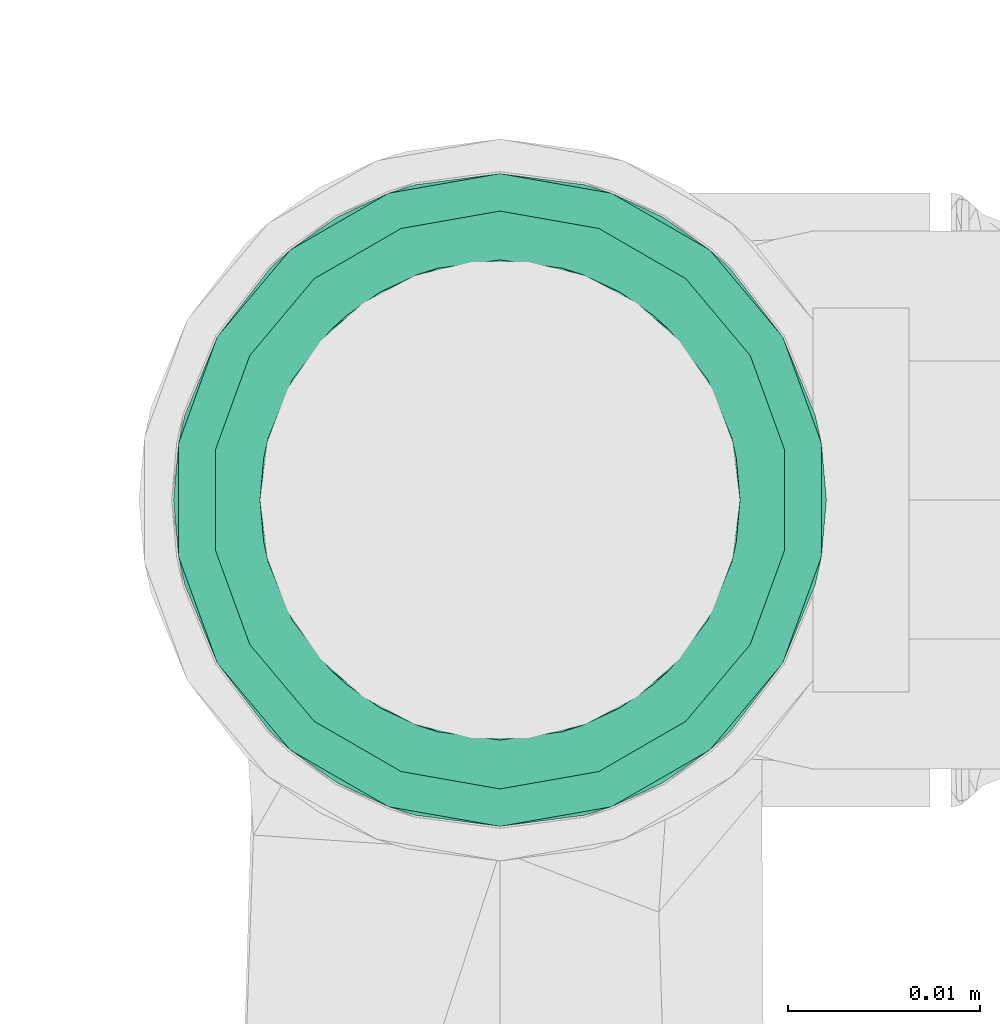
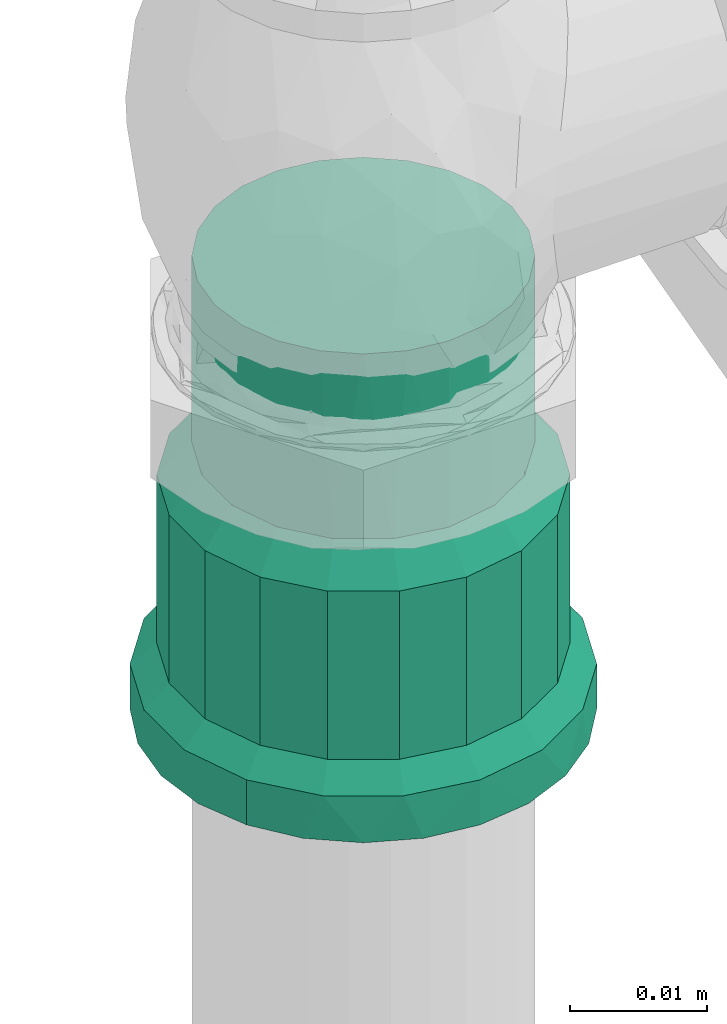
# One storey, part 362 of 589: 1 flow fitting.
"""IFC2X3 building model written with IfcOpenShell, lengths in millimetres."""

from ifc_helpers import new_model, entity, si_unit, converted_unit, derived_unit, direction, frame, origin, place, context, subcontext, project, spatial, faceted_brep, source, transform, mapped, material, type_object, type_shapes, element, save


model = new_model("IFC2X3")

# Units and contexts
model_context = context("Model", 3, precision=0.01, world=origin(), true_north=direction((6.123031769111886e-17, 1.0)))
body_context = subcontext(model_context, "Body", "Model", "MODEL_VIEW")
ifc_project = project(units=[si_unit("LENGTHUNIT", "METRE", prefix="MILLI"), si_unit("AREAUNIT", "SQUARE_METRE"), si_unit("VOLUMEUNIT", "CUBIC_METRE"), converted_unit("PLANEANGLEUNIT", "DEGREE", entity("IfcRatioMeasure", 0.017453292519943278), si_unit("PLANEANGLEUNIT", "RADIAN"), dimensions=[0, 0, 0, 0, 0, 0, 0]), si_unit("MASSUNIT", "GRAM", prefix="KILO"), derived_unit("MASSDENSITYUNIT", [(si_unit("MASSUNIT", "GRAM", prefix="KILO"), 1), (si_unit("LENGTHUNIT", "METRE"), -3)]), derived_unit("IONCONCENTRATIONUNIT", [(si_unit("MASSUNIT", "GRAM", prefix="KILO"), 1), (si_unit("LENGTHUNIT", "METRE"), -3)]), derived_unit("MOMENTOFINERTIAUNIT", [(si_unit("LENGTHUNIT", "METRE"), 4)]), si_unit("TIMEUNIT", "SECOND"), si_unit("FREQUENCYUNIT", "HERTZ"), si_unit("THERMODYNAMICTEMPERATUREUNIT", "DEGREE_CELSIUS"), derived_unit("THERMALTRANSMITTANCEUNIT", [(si_unit("MASSUNIT", "GRAM", prefix="KILO"), 1), (si_unit("THERMODYNAMICTEMPERATUREUNIT", "KELVIN"), -1), (si_unit("TIMEUNIT", "SECOND"), -3)]), derived_unit("THERMALCONDUCTANCEUNIT", [(si_unit("MASSUNIT", "GRAM", prefix="KILO"), 1), (si_unit("THERMODYNAMICTEMPERATUREUNIT", "KELVIN"), -1), (si_unit("TIMEUNIT", "SECOND"), -3), (si_unit("LENGTHUNIT", "METRE"), 1)]), derived_unit("VOLUMETRICFLOWRATEUNIT", [(si_unit("LENGTHUNIT", "METRE"), 3), (si_unit("TIMEUNIT", "SECOND"), -1)]), derived_unit("MASSFLOWRATEUNIT", [(si_unit("MASSUNIT", "GRAM", prefix="KILO"), 1), (si_unit("TIMEUNIT", "SECOND"), -1)]), derived_unit("ROTATIONALFREQUENCYUNIT", [(si_unit("TIMEUNIT", "SECOND"), -1)]), si_unit("ELECTRICCURRENTUNIT", "AMPERE"), si_unit("ELECTRICVOLTAGEUNIT", "VOLT"), si_unit("POWERUNIT", "WATT"), si_unit("FORCEUNIT", "NEWTON", prefix="KILO"), si_unit("ILLUMINANCEUNIT", "LUX"), si_unit("LUMINOUSFLUXUNIT", "LUMEN"), si_unit("LUMINOUSINTENSITYUNIT", "CANDELA"), derived_unit("USERDEFINED", [(si_unit("MASSUNIT", "GRAM", prefix="KILO"), -1), (si_unit("LENGTHUNIT", "METRE"), -2), (si_unit("TIMEUNIT", "SECOND"), 3), (si_unit("LUMINOUSFLUXUNIT", "LUMEN"), 1)]), derived_unit("USERDEFINED", [(si_unit("MASSUNIT", "GRAM", prefix="KILO"), 1), (si_unit("TIMEUNIT", "SECOND"), -3), (si_unit("LENGTHUNIT", "METRE"), 3), (si_unit("ELECTRICCURRENTUNIT", "AMPERE"), -2)]), derived_unit("SOUNDPOWERUNIT", [(si_unit("MASSUNIT", "GRAM", prefix="KILO"), 1), (si_unit("TIMEUNIT", "SECOND"), -3), (si_unit("LENGTHUNIT", "METRE"), 2)]), derived_unit("SOUNDPRESSUREUNIT", [(si_unit("MASSUNIT", "GRAM", prefix="KILO"), 1), (si_unit("LENGTHUNIT", "METRE"), -1), (si_unit("TIMEUNIT", "SECOND"), -2)]), derived_unit("LINEARVELOCITYUNIT", [(si_unit("LENGTHUNIT", "METRE"), 1), (si_unit("TIMEUNIT", "SECOND"), -1)]), si_unit("PRESSUREUNIT", "PASCAL"), derived_unit("USERDEFINED", [(si_unit("MASSUNIT", "GRAM", prefix="KILO"), 1), (si_unit("LENGTHUNIT", "METRE"), -2), (si_unit("TIMEUNIT", "SECOND"), -2)]), derived_unit("LINEARFORCEUNIT", [(si_unit("MASSUNIT", "GRAM", prefix="KILO"), 1), (si_unit("TIMEUNIT", "SECOND"), -2)]), derived_unit("PLANARFORCEUNIT", [(si_unit("MASSUNIT", "GRAM", prefix="KILO"), 1), (si_unit("LENGTHUNIT", "METRE"), -1), (si_unit("TIMEUNIT", "SECOND"), -2)]), derived_unit("SPECIFICHEATCAPACITYUNIT", [(si_unit("THERMODYNAMICTEMPERATUREUNIT", "KELVIN"), -1), (si_unit("LENGTHUNIT", "METRE"), 2), (si_unit("TIMEUNIT", "SECOND"), -2)]), derived_unit("HEATINGVALUEUNIT", [(si_unit("LENGTHUNIT", "METRE"), 2), (si_unit("TIMEUNIT", "SECOND"), -2)]), derived_unit("VAPORPERMEABILITYUNIT", [(si_unit("LENGTHUNIT", "METRE"), -1), (si_unit("TIMEUNIT", "SECOND"), 1)]), derived_unit("DYNAMICVISCOSITYUNIT", [(si_unit("MASSUNIT", "GRAM", prefix="KILO"), 1), (si_unit("TIMEUNIT", "SECOND"), -1), (si_unit("LENGTHUNIT", "METRE"), -1)]), derived_unit("THERMALEXPANSIONCOEFFICIENTUNIT", [(si_unit("THERMODYNAMICTEMPERATUREUNIT", "KELVIN"), -1)]), derived_unit("MODULUSOFELASTICITYUNIT", [(si_unit("MASSUNIT", "GRAM", prefix="KILO"), 1), (si_unit("LENGTHUNIT", "METRE"), -1), (si_unit("TIMEUNIT", "SECOND"), -2)]), derived_unit("ISOTHERMALMOISTURECAPACITYUNIT", [(si_unit("LENGTHUNIT", "METRE"), 3), (si_unit("MASSUNIT", "GRAM", prefix="KILO"), -1)]), derived_unit("MOISTUREDIFFUSIVITYUNIT", [(si_unit("TIMEUNIT", "SECOND"), -1), (si_unit("LENGTHUNIT", "METRE"), 2)])], contexts=[model_context])

# Site, building, storey
site_placement = place(None, origin())
site = spatial("IfcSite", under=ifc_project, at=site_placement, Name="Default", CompositionType="ELEMENT")
building_placement = place(site_placement, origin())
building = spatial("IfcBuilding", under=site, at=building_placement, CompositionType="ELEMENT")
storey_placement = place(building_placement, frame((0.0, 0.0, 100.0)))
storey = spatial("IfcBuildingStorey", under=building, at=storey_placement, Name="TÉRREO", CompositionType="ELEMENT", Elevation=100.0)

# Flow fitting
ifc_material = material(Name="PVC Marrom")
pipe_fitting_type = type_object("IfcPipeFittingType", Name="PVC Marrom Soldável_Adaptador Curto com Bolsa e Rosca Aninhado_Rodrigo MEP:Adaptador", PredefinedType="NOTDEFINED", material=ifc_material)
shared_shape = source(origin(), body_context, "Body", "Brep", [
    faceted_brep([(0.0, 6.2499999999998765, -10.825317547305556), (0.0, 12.020815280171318, -12.0208152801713), (0.0, 8.500000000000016, -14.72243186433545), (0.0, 8.838834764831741, -8.83883476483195), (0.0, 3.2352380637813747, -12.07407282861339), (0.0, 14.722431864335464, -8.499999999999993), (0.0, 10.825317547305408, -6.250000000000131), (0.0, 12.074072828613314, -3.2352380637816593), (0.0, 16.42073904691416, -4.399923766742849), (0.0, 12.5, 0.0), (0.0, 17.0, 0.0), (0.0, 12.074072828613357, 3.2352380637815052), (0.0, 16.420739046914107, 4.399923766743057), (0.0, 10.825317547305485, 6.2499999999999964), (0.0, 14.722431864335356, 8.500000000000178), (0.0, 8.83883476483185, 8.838834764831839), (0.0, 12.020815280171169, 12.020815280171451), (0.0, 6.250000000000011, 10.82531754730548), (0.0, 8.499999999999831, 14.722431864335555), (0.0, 3.2352380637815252, 12.07407282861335), (0.0, 4.39992376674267, 16.42073904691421), (0.0, 0.0, 12.5), (0.0, 0.0, 17.0), (0.0, -3.2352380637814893, 12.07407282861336), (0.0, -4.399923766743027, 16.420739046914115), (0.0, -6.24999999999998, 10.825317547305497), (0.0, -8.500000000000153, 14.722431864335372), (0.0, -8.838834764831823, 8.838834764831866), (0.0, -12.020815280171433, 12.020815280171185), (0.0, -10.82531754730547, 6.250000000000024), (0.0, -14.722431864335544, 8.499999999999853), (0.0, -16.42073904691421, 4.399923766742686), (0.0, -12.074072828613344, 3.2352380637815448), (0.0, -17.0, 0.0), (0.0, -12.5, 0.0), (0.0, -16.42073904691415, -4.399923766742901), (0.0, -12.074072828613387, -3.235238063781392), (0.0, -14.722431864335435, -8.500000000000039), (0.0, -10.82531754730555, -6.249999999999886), (0.0, -12.02081528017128, -12.020815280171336), (0.0, -8.838834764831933, -8.838834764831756), (0.0, -8.499999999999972, -14.722431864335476), (0.0, -6.250000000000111, -10.825317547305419), (0.0, -4.399923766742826, -16.42073904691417), (0.0, -3.235238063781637, -12.074072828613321), (0.0, 0.0, -17.0), (0.0, 0.0, -12.5), (0.0, 4.399923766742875, -16.420739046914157), (4.0, -16.487306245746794, 2.907393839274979), (4.0, -15.974612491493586, 5.8147876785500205), (4.0, -13.022146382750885, 10.928115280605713), (4.0, -10.760457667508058, 12.825628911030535), (4.0, -14.498379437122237, 8.371451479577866), (4.0, -2.9501525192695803, 16.742060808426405), (4.0, -5.724460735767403, 15.732601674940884), (4.0, -17.0, 0.0), (4.0, -16.59968259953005, 2.27012779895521), (4.0, -8.498768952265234, 14.723142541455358), (4.0, 5.728407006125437, 15.731165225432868), (4.0, 8.502461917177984, 14.721010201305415), (4.0, 2.954352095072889, 16.74132024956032), (4.0, 10.763674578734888, 12.82292929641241), (4.0, 13.02488724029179, 10.924848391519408), (4.0, 15.976070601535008, 5.8107803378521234), (4.0, 17.0, 0.0), (4.0, 14.5004789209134, 8.367814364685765), (4.0, 0.002099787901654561, 16.741690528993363), (4.0, 15.97607060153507, -5.810780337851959), (4.0, 13.024887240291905, -10.92484839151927), (4.0, 10.763674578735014, -12.822929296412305), (4.0, 14.500478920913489, -8.367814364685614), (4.0, 2.9543520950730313, -16.741320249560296), (4.0, 5.728407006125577, -15.731165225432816), (4.0, 8.502461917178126, -14.721010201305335), (4.0, -16.487306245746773, -2.907393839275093), (4.0, -5.724460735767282, -15.732601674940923), (4.0, -8.498768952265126, -14.72314254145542), (4.0, -2.950152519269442, -16.74206080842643), (4.0, -10.760457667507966, -12.825628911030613), (4.0, -13.022146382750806, -10.928115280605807), (4.0, -15.974612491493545, -5.814787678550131), (4.0, -14.498379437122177, -8.371451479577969), (4.0, 0.002099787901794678, -16.741690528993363), (4.0, -16.599682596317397, -2.2701278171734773), (20.84999999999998, -14.142230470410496, 5.147797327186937), (5.900000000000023, -14.142230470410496, 5.147797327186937), (5.900000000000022, -14.59611523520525, 2.573898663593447), (5.900000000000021, -15.05, 0.0), (20.850000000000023, -15.05, 0.0), (20.85, -14.596115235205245, 2.573898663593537), (20.849999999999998, -14.535973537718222, 2.91495138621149), (20.84999999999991, -7.523910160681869, 13.034311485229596), (5.900000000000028, -7.523910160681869, 13.034311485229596), (5.900000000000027, -9.526169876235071, 11.354453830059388), (5.900000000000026, -11.528429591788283, 9.674596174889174), (20.84999999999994, -11.528429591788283, 9.674596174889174), (20.849999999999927, -9.52616987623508, 11.354453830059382), (5.900000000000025, -12.83533003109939, 7.411196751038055), (20.849999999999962, -12.835330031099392, 7.411196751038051), (5.900000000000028, -5.067831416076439, 13.927979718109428), (20.849999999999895, -5.067831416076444, 13.927979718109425), (20.849999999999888, -2.6117526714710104, 14.821647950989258), (5.900000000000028, -2.6117526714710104, 14.821647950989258), (5.900000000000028, 0.0018589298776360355, 14.8213201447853), (20.849999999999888, 0.0018589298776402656, 14.821320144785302), (20.849999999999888, 2.61547053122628, 14.820992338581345), (5.900000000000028, 2.615470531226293, 14.820992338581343), (20.849999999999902, 7.527179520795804, 13.032423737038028), (5.900000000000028, 7.527179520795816, 13.032423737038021), (5.900000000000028, 5.071325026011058, 13.92670803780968), (20.849999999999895, 5.0713250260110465, 13.926708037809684), (20.84999999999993, 11.530856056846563, 9.671704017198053), (5.900000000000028, 11.530856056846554, 9.671704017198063), (5.900000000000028, 9.52901778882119, 11.35206387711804), (20.849999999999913, 9.529017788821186, 11.352063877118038), (20.849999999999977, 14.143521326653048, 5.144249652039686), (5.900000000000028, 14.143521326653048, 5.144249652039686), (5.900000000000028, 12.837188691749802, 7.407976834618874), (20.849999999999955, 12.837188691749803, 7.407976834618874), (20.850000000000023, 15.05, 0.0), (5.900000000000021, 15.05, 0.0), (20.85000000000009, 14.143521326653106, -5.144249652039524), (5.900000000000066, 14.143521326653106, -5.144249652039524), (5.900000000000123, 7.527179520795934, -13.032423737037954), (5.900000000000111, 9.529017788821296, -11.352063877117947), (5.900000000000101, 11.530856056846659, -9.67170401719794), (20.85000000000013, 11.530856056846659, -9.67170401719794), (20.85000000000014, 9.529017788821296, -11.352063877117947), (20.850000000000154, 7.527179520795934, -13.032423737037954), (20.850000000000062, -14.142230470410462, -5.147797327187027), (5.900000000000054, -14.142230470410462, -5.147797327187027), (5.90000000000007, -12.835330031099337, -7.411196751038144), (5.900000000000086, -11.528429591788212, -9.67459617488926), (20.850000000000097, -11.528429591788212, -9.67459617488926), (20.850000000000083, -12.835330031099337, -7.411196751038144), (20.850000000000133, -7.523910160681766, -13.034311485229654), (5.900000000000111, -7.523910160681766, -13.034311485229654), (5.90000000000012, -5.067831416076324, -13.927979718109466), (5.900000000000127, -2.6117526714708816, -14.821647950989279), (20.850000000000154, -2.6117526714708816, -14.821647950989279), (20.85000000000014, -5.067831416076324, -13.927979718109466), (5.900000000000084, 12.837188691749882, -7.407976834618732), (20.850000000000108, 12.837188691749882, -7.40797683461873), (5.900000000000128, 5.071325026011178, -13.926708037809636), (20.850000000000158, 5.071325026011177, -13.926708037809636), (20.85000000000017, 2.6154705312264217, -14.82099233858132), (5.900000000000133, 2.6154705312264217, -14.82099233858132), (20.850000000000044, -14.535973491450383, -2.91495164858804), (20.85000000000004, -14.667751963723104, -2.1676596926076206), (5.900000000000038, -14.596115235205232, -2.573898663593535), (5.900000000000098, -9.526169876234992, -11.354453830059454), (20.850000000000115, -9.52616987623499, -11.354453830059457), (5.900000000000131, 0.0018589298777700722, -14.821320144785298), (20.850000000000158, 0.0018589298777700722, -14.821320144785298), (40.29999999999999, 3.2352380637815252, -12.07407282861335), (40.29999999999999, 6.250000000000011, -10.82531754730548), (40.29999999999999, 8.83883476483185, -8.838834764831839), (40.29999999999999, 10.825317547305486, -6.249999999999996), (40.29999999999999, 12.074072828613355, -3.2352380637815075), (40.29999999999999, 12.5, 0.0), (40.29999999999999, 12.074072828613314, 3.2352380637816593), (40.29999999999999, 10.825317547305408, 6.250000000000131), (40.29999999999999, 8.838834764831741, 8.83883476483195), (40.29999999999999, 6.2499999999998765, 10.825317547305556), (40.29999999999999, 3.2352380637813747, 12.07407282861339), (40.29999999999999, 0.0, 12.5), (40.29999999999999, -3.235238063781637, 12.074072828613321), (40.29999999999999, -6.250000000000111, 10.825317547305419), (40.29999999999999, -8.838834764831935, 8.838834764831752), (40.29999999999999, -10.825317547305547, 6.249999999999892), (40.29999999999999, -12.074072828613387, 3.235238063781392), (40.29999999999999, -12.5, 0.0), (40.29999999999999, -12.074072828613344, -3.2352380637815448), (40.29999999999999, -10.825317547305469, -6.2500000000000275), (40.29999999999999, -8.838834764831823, -8.838834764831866), (40.29999999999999, -6.24999999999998, -10.825317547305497), (40.29999999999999, -3.2352380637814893, -12.07407282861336), (40.29999999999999, 0.0, -12.5), (23.749999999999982, -12.5, 0.0), (23.74999999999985, -9.57510763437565, 8.035378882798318), (23.749999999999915, -11.746038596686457, 4.275579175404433), (23.749999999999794, -6.249094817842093, 10.825840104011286), (23.74999999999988, -10.660573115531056, 6.155479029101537), (23.74999999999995, -12.182518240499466, 1.8003818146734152), (23.74999999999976, -2.1692297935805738, 12.310338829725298), (23.74999999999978, -4.209162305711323, 11.56808946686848), (23.74999999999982, -7.912101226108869, 9.430609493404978), (23.749999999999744, 2.1723177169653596, 12.309794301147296), (23.749999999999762, 6.251810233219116, 10.824272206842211), (23.749999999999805, 9.577122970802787, 8.032976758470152), (23.749999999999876, 11.747110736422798, 4.272632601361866), (23.749999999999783, 7.9144666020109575, 9.428624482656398), (23.74999999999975, 4.212063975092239, 11.56703325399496), (23.749999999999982, 12.5, 0.0), (23.749999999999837, 10.662116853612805, 6.15280467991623), (23.74999999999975, 0.0015439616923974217, 12.31006656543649), (23.750000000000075, 9.577122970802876, -8.032976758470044), (23.75000000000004, 11.747110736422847, -4.272632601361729), (23.750000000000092, 6.2518102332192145, -10.824272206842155), (23.750000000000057, 10.662116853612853, -6.152804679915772), (23.7500000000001, 2.1723177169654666, -12.309794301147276), (23.7500000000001, 4.212063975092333, -11.56703325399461), (23.75000000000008, 7.914466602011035, -9.428624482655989), (23.750000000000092, -2.1692297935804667, -12.310338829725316), (23.750000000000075, -6.249094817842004, -10.82584010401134), (23.750000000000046, -9.575107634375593, -8.035378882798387), (23.750000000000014, -11.74603859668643, -4.275579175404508), (23.750000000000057, -7.912101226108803, -9.430609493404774), (23.75000000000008, -4.20916230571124, -11.56808946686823), (23.749999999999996, -12.123019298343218, -2.1377895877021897), (23.750000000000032, -10.660573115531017, -6.155479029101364), (23.7500000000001, 0.0015439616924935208, -12.310066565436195), (5.900000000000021, -12.5, 0.0), (20.850000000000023, -12.5, 0.0), (20.850000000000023, -12.07407282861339, -3.2352380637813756), (5.900000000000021, -12.07407282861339, -3.2352380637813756), (4.0, -12.07407282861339, -3.2352380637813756), (4.0, -12.5, 0.0), (20.850000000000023, -10.825317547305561, -6.249999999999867), (5.900000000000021, -10.825317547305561, -6.249999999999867), (4.0, -10.825317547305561, -6.249999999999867), (5.900000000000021, -6.250000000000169, -10.825317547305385), (4.0, -6.250000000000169, -10.825317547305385), (4.0, -8.838834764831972, -8.838834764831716), (5.900000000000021, -8.838834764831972, -8.838834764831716), (20.850000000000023, -8.838834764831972, -8.838834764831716), (20.850000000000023, -6.250000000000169, -10.825317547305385), (5.900000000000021, -3.235238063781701, -12.074072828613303), (4.0, -3.235238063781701, -12.074072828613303), (20.850000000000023, -3.235238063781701, -12.074072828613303), (20.850000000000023, 0.0, -12.5), (5.900000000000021, 0.0, -12.5), (4.0, 0.0, -12.5), (20.850000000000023, 3.2352380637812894, -12.074072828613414), (5.900000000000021, 3.2352380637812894, -12.074072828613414), (4.0, 3.2352380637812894, -12.074072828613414), (20.850000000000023, 6.24999999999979, -10.825317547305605), (5.900000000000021, 6.24999999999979, -10.825317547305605), (4.0, 6.24999999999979, -10.825317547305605), (5.900000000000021, 10.825317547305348, -6.250000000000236), (4.0, 10.825317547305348, -6.250000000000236), (4.0, 8.838834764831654, -8.838834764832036), (5.900000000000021, 8.838834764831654, -8.838834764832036), (20.850000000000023, 8.838834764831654, -8.838834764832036), (20.850000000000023, 10.825317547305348, -6.250000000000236), (5.900000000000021, 12.07407282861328, -3.2352380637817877), (4.0, 12.07407282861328, -3.2352380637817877), (20.850000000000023, 12.07407282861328, -3.2352380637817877), (20.850000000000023, 12.5, 0.0), (5.900000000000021, 12.5, 0.0), (4.0, 12.5, 0.0), (20.850000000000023, 12.074072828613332, 3.2352380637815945), (5.900000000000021, 12.074072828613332, 3.2352380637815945), (4.0, 12.074072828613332, 3.2352380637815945), (20.850000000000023, 10.82531754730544, 6.250000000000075), (5.900000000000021, 10.82531754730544, 6.250000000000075), (4.0, 10.82531754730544, 6.250000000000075), (5.900000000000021, 6.249999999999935, 10.825317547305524), (4.0, 6.249999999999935, 10.825317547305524), (4.0, 8.838834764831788, 8.838834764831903), (5.900000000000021, 8.838834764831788, 8.838834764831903), (20.850000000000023, 8.838834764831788, 8.838834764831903), (20.850000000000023, 6.249999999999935, 10.825317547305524), (5.900000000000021, 3.2352380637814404, 12.074072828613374), (4.0, 3.2352380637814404, 12.074072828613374), (20.850000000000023, 3.2352380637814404, 12.074072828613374), (20.850000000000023, 0.0, 12.5), (5.900000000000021, 0.0, 12.5), (4.0, 0.0, 12.5), (20.850000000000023, -3.2352380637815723, 12.074072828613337), (5.900000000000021, -3.2352380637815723, 12.074072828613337), (4.0, -3.2352380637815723, 12.074072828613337), (20.850000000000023, -6.250000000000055, 10.825317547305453), (5.900000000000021, -6.250000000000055, 10.825317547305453), (4.0, -6.250000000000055, 10.825317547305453), (5.900000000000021, -10.825317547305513, 6.249999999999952), (4.0, -10.825317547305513, 6.249999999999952), (4.0, -8.838834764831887, 8.838834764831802), (5.900000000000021, -8.838834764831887, 8.838834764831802), (20.850000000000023, -8.838834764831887, 8.838834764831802), (20.850000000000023, -10.825317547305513, 6.249999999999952), (5.900000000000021, -12.07407282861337, 3.2352380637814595), (4.0, -12.07407282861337, 3.2352380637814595), (20.850000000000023, -12.07407282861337, 3.2352380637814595)], [[[0, 1, 2]], [[3, 1, 0]], [[4, 0, 2]], [[1, 3, 5]], [[5, 3, 6]], [[5, 6, 7]], [[8, 5, 7]], [[9, 8, 7]], [[10, 8, 9]], [[10, 9, 11]], [[12, 10, 11]], [[12, 11, 13]], [[14, 12, 13]], [[14, 13, 15]], [[15, 16, 14]], [[15, 17, 16]], [[18, 16, 17]], [[19, 18, 17]], [[18, 19, 20]], [[21, 20, 19]], [[22, 20, 21]], [[21, 23, 22]], [[24, 22, 23]], [[25, 24, 23]], [[24, 25, 26]], [[25, 27, 26]], [[27, 28, 26]], [[28, 27, 29]], [[28, 29, 30]], [[30, 29, 31]], [[31, 29, 32]], [[33, 31, 32]], [[32, 34, 33]], [[33, 34, 35]], [[34, 36, 35]], [[37, 35, 36]], [[37, 36, 38]], [[39, 37, 38]], [[40, 39, 38]], [[40, 41, 39]], [[42, 41, 40]], [[43, 41, 42]], [[42, 44, 43]], [[43, 44, 45]], [[46, 45, 44]], [[46, 4, 47]], [[45, 46, 47]], [[2, 47, 4]], [[48, 49, 31]], [[28, 50, 51]], [[50, 30, 49, 52]], [[53, 24, 54]], [[30, 31, 49]], [[33, 55, 56, 48]], [[51, 57, 26]], [[51, 26, 28]], [[30, 50, 28]], [[58, 59, 18]], [[58, 18, 20]], [[26, 57, 54]], [[26, 54, 24]], [[22, 24, 53]], [[33, 48, 31]], [[20, 60, 58]], [[16, 61, 62]], [[12, 63, 64]], [[63, 14, 62, 65]], [[12, 64, 10]], [[18, 61, 16]], [[22, 53, 66, 60]], [[22, 60, 20]], [[14, 16, 62]], [[59, 61, 18]], [[14, 63, 12]], [[8, 64, 67]], [[1, 68, 69]], [[68, 5, 67, 70]], [[71, 47, 72]], [[5, 8, 67]], [[8, 10, 64]], [[2, 72, 47]], [[69, 73, 2]], [[5, 68, 1]], [[74, 33, 35]], [[75, 76, 41]], [[2, 73, 72]], [[75, 41, 43]], [[45, 47, 71]], [[69, 2, 1]], [[43, 77, 75]], [[39, 78, 79]], [[35, 80, 74]], [[80, 37, 79, 81]], [[37, 80, 35]], [[41, 78, 39]], [[45, 71, 82, 77]], [[45, 77, 43]], [[37, 39, 79]], [[76, 78, 41]], [[33, 74, 83, 55]], [[84, 85, 86, 87, 88, 89, 90]], [[91, 92, 93, 94, 95, 96]], [[97, 85, 84, 98, 95, 94]], [[99, 92, 91, 100, 101, 102]], [[103, 102, 101, 104, 105, 106]], [[107, 108, 109, 106, 105, 110]], [[111, 112, 113, 108, 107, 114]], [[115, 116, 117, 112, 111, 118]], [[115, 119, 120, 116]], [[120, 119, 121, 122]], [[123, 124, 125, 126, 127, 128]], [[129, 130, 131, 132, 133, 134]], [[135, 136, 137, 138, 139, 140]], [[141, 122, 121, 142, 126, 125]], [[143, 123, 128, 144, 145, 146]], [[147, 148, 88, 87, 149, 130, 129]], [[133, 132, 150, 136, 135, 151]], [[152, 146, 145, 153, 139, 138]], [[154, 155, 156, 157, 158, 159, 160, 161, 162, 163, 164, 165, 166, 167, 168, 169, 170, 171, 172, 173, 174, 175, 176, 177]], [[178, 171, 170]], [[179, 169, 168]], [[170, 169, 180]], [[168, 167, 181]], [[169, 179, 182, 180]], [[170, 180, 183, 178]], [[166, 184, 185, 181]], [[168, 181, 186, 179]], [[184, 166, 165]], [[181, 167, 166]], [[164, 187, 165]], [[163, 188, 164]], [[189, 162, 161]], [[163, 162, 188]], [[190, 161, 160]], [[162, 189, 191, 188]], [[164, 188, 192, 187]], [[160, 193, 190]], [[161, 190, 194, 189]], [[160, 159, 193]], [[165, 187, 195, 184]], [[193, 159, 158]], [[196, 157, 156]], [[158, 157, 197]], [[156, 155, 198]], [[157, 196, 199, 197]], [[197, 193, 158]], [[154, 200, 201, 198]], [[156, 198, 202, 196]], [[200, 154, 177]], [[198, 155, 154]], [[176, 203, 177]], [[175, 204, 176]], [[205, 174, 173]], [[175, 174, 204]], [[206, 173, 172]], [[174, 205, 207, 204]], [[176, 204, 208, 203]], [[172, 178, 209, 206]], [[173, 206, 210, 205]], [[172, 171, 178]], [[177, 203, 211, 200]], [[212, 213, 214, 215, 216, 36, 34, 217]], [[215, 214, 218, 219, 220, 38, 36, 216]], [[221, 222, 42, 40, 223, 224, 225, 226]], [[225, 224, 223, 40, 38, 220, 219, 218]], [[227, 228, 44, 42, 222, 221, 226, 229]], [[227, 229, 230, 231, 232, 46, 44, 228]], [[231, 230, 233, 234, 235, 4, 46, 232]], [[234, 233, 236, 237, 238, 0, 4, 235]], [[239, 240, 6, 3, 241, 242, 243, 244]], [[243, 242, 241, 3, 0, 238, 237, 236]], [[245, 246, 7, 6, 240, 239, 244, 247]], [[245, 247, 248, 249, 250, 9, 7, 246]], [[249, 248, 251, 252, 253, 11, 9, 250]], [[252, 251, 254, 255, 256, 13, 11, 253]], [[257, 258, 17, 15, 259, 260, 261, 262]], [[261, 260, 259, 15, 13, 256, 255, 254]], [[263, 264, 19, 17, 258, 257, 262, 265]], [[263, 265, 266, 267, 268, 21, 19, 264]], [[267, 266, 269, 270, 271, 23, 21, 268]], [[270, 269, 272, 273, 274, 25, 23, 271]], [[275, 276, 29, 27, 277, 278, 279, 280]], [[279, 278, 277, 27, 25, 274, 273, 272]], [[281, 282, 32, 29, 276, 275, 280, 283]], [[281, 283, 213, 212, 217, 34, 32, 282]], [[120, 122, 67, 64]], [[73, 123, 143, 146, 71, 72]], [[123, 73, 69, 68, 125, 124]], [[70, 67, 122, 141, 125, 68]], [[77, 138, 137, 136, 76, 75]], [[130, 80, 81, 79, 132, 131]], [[149, 87, 55, 83, 74, 80, 130]], [[82, 71, 146, 152, 138, 77]], [[78, 76, 136, 150, 132, 79]], [[49, 48, 56, 55, 87, 86, 85]], [[52, 49, 85, 97, 94, 50]], [[51, 50, 94, 93, 92, 57]], [[92, 99, 102, 53, 54, 57]], [[103, 106, 60, 66, 53, 102]], [[109, 108, 59, 58, 60, 106]], [[116, 120, 64, 63]], [[112, 117, 116, 63, 65, 62]], [[108, 113, 112, 62, 61, 59]], [[233, 230, 229, 226, 225, 218, 214, 213, 283, 280, 279, 272, 269, 266, 265, 262, 261, 254, 251, 248, 247, 244, 243, 236]], [[180, 84, 90, 89, 88, 178, 183]], [[184, 101, 100, 91, 181, 185]], [[96, 95, 179, 186, 181, 91]], [[98, 84, 180, 182, 179, 95]], [[101, 184, 195, 187, 105, 104]], [[190, 115, 118, 111, 189, 194]], [[105, 187, 192, 188, 107, 110]], [[190, 193, 119, 115]], [[114, 107, 188, 191, 189, 111]], [[193, 197, 121, 119]], [[128, 198, 201, 200, 145, 144]], [[198, 128, 127, 126, 196, 202]], [[142, 121, 197, 199, 196, 126]], [[139, 203, 208, 204, 135, 140]], [[206, 129, 134, 133, 205, 210]], [[209, 178, 88, 148, 147, 129, 206]], [[153, 145, 200, 211, 203, 139]], [[151, 135, 204, 207, 205, 133]]]),
])
type_shapes(pipe_fitting_type, [shared_shape])
flow_fitting_placement = place(storey_placement, frame((-7250.812352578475, 1007.7159451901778, 847.2625000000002), z_axis=(1.0, 0.0, 0.0), x_axis=(0.0, 0.0, 1.0)))
element("IfcFlowFitting", 1, at=flow_fitting_placement, inside=storey, type_object=pipe_fitting_type, material=ifc_material, Name="PVC Marrom Soldável_Adaptador Curto com Bolsa e Rosca Aninhado_Rodrigo MEP:Adaptador", ObjectType="PVC Marrom Soldável_Adaptador Curto com Bolsa e Rosca Aninhado_Rodrigo MEP:Adaptador", context=body_context, shape_type="MappedRepresentation", body=[
    mapped(shared_shape, transform((0.0, 0.0, 0.0), scale=1.0)),
])

save(model, "model.ifc")
